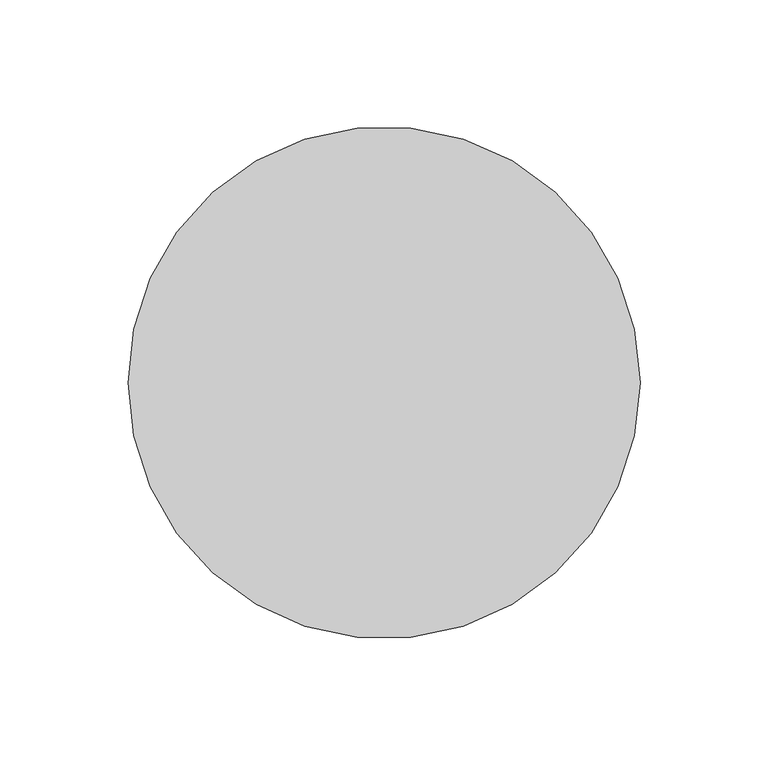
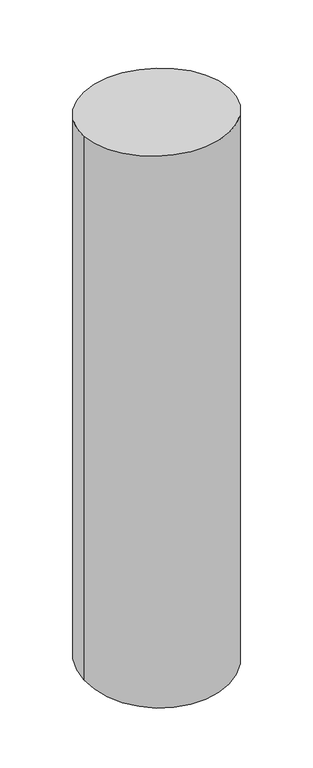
"""IFC4 building model written with IfcOpenShell, lengths in millimetres: member geometry, 矩形竖梃 : 圆瓦."""

from ifc_helpers import new_model, si_unit, frame, origin, origin_with_axes, place, context, project, spatial, ellipse_curve, source, transform, mapped, element, save
from ifc_brep_helpers import plane_surface, cylinder_surface, advanced_brep


def member_02d8162e(model_context):
    return source(origin(), model_context, "Body", "AdvancedBrep", [
        advanced_brep(
        [(-100.0, 0.0, 0.0), (100.0, 0.0, 0.0), (100.0, 0.0, -790.1124317), (-100.0, 0.0, -790.1124317)],
        [
            (0, 1, ellipse_curve(frame((0.0, 0.0, 0.0), z_axis=(0.0, -0.06767279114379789, -0.9977075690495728), x_axis=(0.0, -0.9977075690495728, 0.06767279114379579)), 100.2297698, 100.0)),
            (1, 2),
            (2, 3, ellipse_curve(frame((0.0, 0.0, -790.1124317), z_axis=(0.0, -0.06767279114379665, 0.9977075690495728), x_axis=(0.0, 0.9977075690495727, 0.06767279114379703)), 100.2297698, 100.0)),
            (3, 0),
            (1, 0, ellipse_curve(frame((0.0, 0.0, 0.0), z_axis=(0.0, -0.06767279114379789, -0.9977075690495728), x_axis=(0.0, -0.9977075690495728, 0.06767279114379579)), 100.2297698, 100.0)),
            (3, 2, ellipse_curve(frame((0.0, 0.0, -790.1124317), z_axis=(0.0, -0.06767279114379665, 0.9977075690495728), x_axis=(0.0, 0.9977075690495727, 0.06767279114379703)), 100.2297698, 100.0)),
        ],
        [
            cylinder_surface(origin_with_axes(), 100.0),
            plane_surface(frame((-304.8, 0.0, 0.0), z_axis=(0.0, 0.06767279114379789, 0.9977075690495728), x_axis=(0.0, 0.9977075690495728, -0.06767279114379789))),
            plane_surface(frame((-304.8, 0.0, -790.1124317), z_axis=(0.0, 0.06767279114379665, -0.9977075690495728), x_axis=(0.0, 0.9977075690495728, 0.06767279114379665))),
        ],
        [
            (0, [[1, 2, 3, 4]]),
            (0, [[5, -4, 6, -2]]),
            (1, [[-1, -5]]),
            (2, [[-6, -3]]),
        ],
    ),
    ])


if __name__ == "__main__":
    model = new_model("IFC4")
    model_context = context("Model", 3, world=origin())
    ifc_project = project(units=[si_unit("LENGTHUNIT", "METRE", prefix="MILLI")], contexts=[model_context])
    site = spatial("IfcSite", under=ifc_project)
    building = spatial("IfcBuilding", under=site)
    placement = place(None, origin())
    member_shape = member_02d8162e(model_context)
    element("IfcMember", 1, ObjectType="矩形竖梃 : 圆瓦", at=placement, inside=building, context=model_context, shape_type="MappedRepresentation", body=[
        mapped(member_shape, transform((0.0, 0.0, 0.0), x_axis=(1.0, 0.0, 0.0), y_axis=(0.0, 1.0, 0.0), z_axis=(0.0, 0.0, 1.0))),
    ])
    save(model, "model.ifc")
